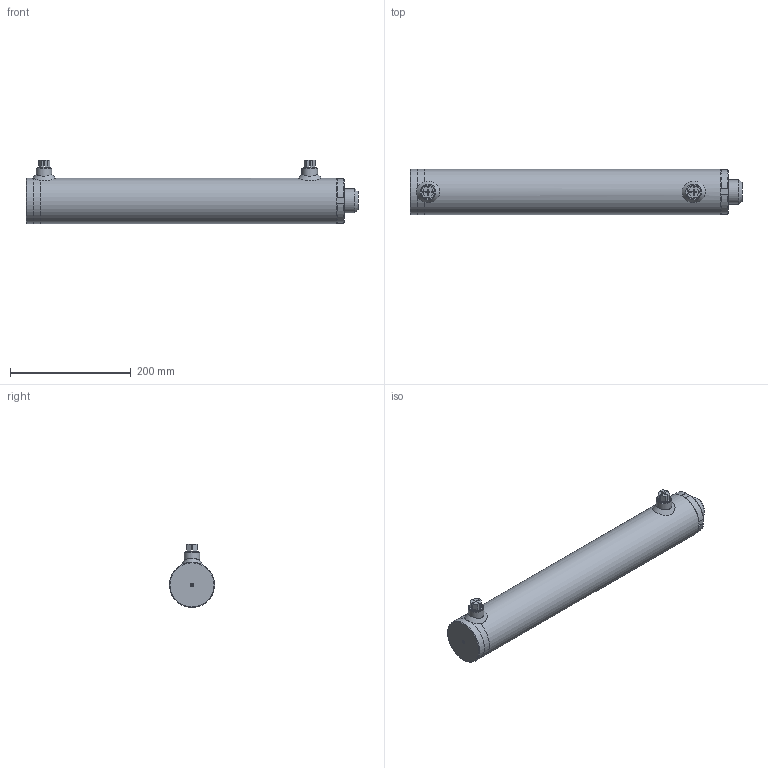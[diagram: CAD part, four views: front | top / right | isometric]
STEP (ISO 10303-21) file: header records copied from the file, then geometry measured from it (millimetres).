
FILE_DESCRIPTION( ( 'Unknown' ), '1' );
FILE_NAME( 'E:/LIBRERIA_3d/CILINDRI/HM0PM/HM0PM0600400400.stp', 'Unknown', ( 'Unknown' ), ( 'Unknown' ), 'PSStep 17.0.49', 'Unknown', ' ' );
FILE_SCHEMA( ( 'AUTOMOTIVE_DESIGN { 1 0 10303 214 1 1 1 1 }' ) );
Length unit declared in the file: millimetre
Products named in the file (32): CTPM060030045; AVG3006080; STSP0600750400-oa8; Saldatura d'angolo 1-oa5; MAT_PRIMA_TUBO_FTL0750600-oa6; CBSC220600-oa7; CGPM075060040; Assem1; CBSC220600; Saldatura con preparazione 1-oa0; Saldatura d'angolo 1-oa1; CFPM075060020; GHMCA040050220; GOR1420000-oa2; GOR8320000-oa3; GKS8320000-oa4; GAF040045097; GAF040045056; gttx130800br; GAF055060056; GOR2170000; GPDH106000; APSEP43522; SBLP0400600400
Assembly tree (30 placements, depth 3):
  Saldatura d'angolo 1-oa5
  Saldatura d'angolo 1-oa5
  Assem1
    CBSC220600
    Saldatura con preparazione 1-oa0
    Saldatura con preparazione 1-oa0
    CFPM075060020
    GHMCA040050220
    GHMCA040050220
    GOR1420000-oa2
    GOR8320000-oa3
    GKS8320000-oa4
    GAF040045097
    GAF040045056  x2
    gttx130800br
    GAF055060056  x2
    GOR2170000
    GPDH106000
    GPDH106000
    GPDH106000
    APSEP43522  x2
    SBLP0400600400
    CGPM075060040
      CGPM075060040
    CTPM060030045
      AVG3006080
      CTPM060030045
    STSP0600750400-oa8
      MAT_PRIMA_TUBO_FTL0750600-oa6
      CBSC220600-oa7
  Saldatura d'angolo 1-oa1
  Saldatura d'angolo 1-oa1
Bounding box: 550 x 75 x 104.5 mm (x, y, z)
Volume: 1733890 mm3; surface area: 411230.9 mm2
Topology: 31 solids, 31 shells, 369 faces, 763 edges, 484 vertices
Faces by surface type: plane 151, cylinder 107, torus 57, cone 50, bspline 4
Full cylindrical faces by diameter (mm): 4.25 x2, 4.917 x1, 6 x1, 7.5 x2, 10 x2, 14.95 x2, 16.662 x2, 22.2 x2, 24 x2, 24.835 x1, 26 x6, 27 x2, 30 x3, 36.2 x1, 40 x2, 40.5 x1, 40.6 x2, 40.8 x5, 45 x3, 48.7 x1, 49 x1, 49.5 x1, 50 x6, 52 x1, 54.5 x2, 55 x4, 55.4 x2, 59.3 x6, 59.9 x1, 60 x2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
Entity records: 13052 total; most frequent: CARTESIAN_POINT 3830, DIRECTION 1404, ORIENTED_EDGE 894, AXIS2_PLACEMENT_3D 638, EDGE_LOOP 574, FACE_OUTER_BOUND 460, EDGE_CURVE 447, VERTEX_POINT 382
